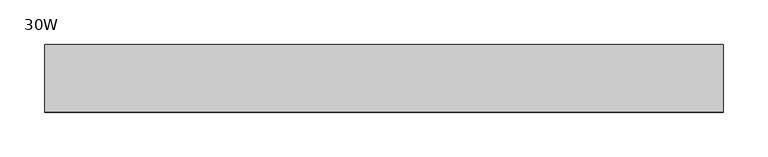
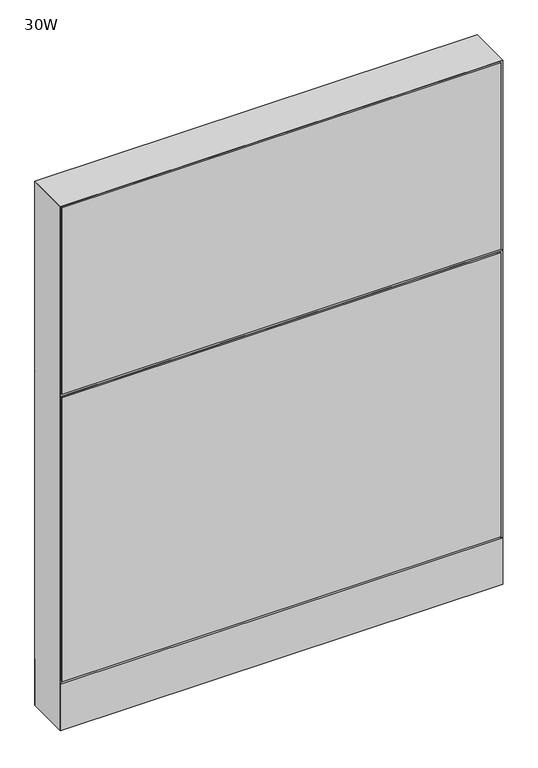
"""IFC4 building model written with IfcOpenShell, lengths in millimetres: furniture geometry, Steelcase - Montage - Frame - 38H - Enhanced Standard - Base Cavity : 30W."""

from ifc_helpers import new_model, si_unit, point, frame, frame_2d, origin, origin_with_axes, place, context, project, spatial, polyline, circle_curve, trimmed, segment, composite_curve, outline, extrude, faceted_brep, source, transform, mapped, element, save


def furniture_30w_2cda6988(model_context):
    return source(origin(), model_context, "Body", "SolidModel", [
        faceted_brep([(-5.4e-06, 38.102627, 612.7750027), (6.3499917, 31.7526299, 619.1249997), (755.6500047, 31.7526299, 619.1249997), (762.0, 38.1026253, 612.7750044), (755.6500047, 31.7526299, 606.4250003), (6.3499917, 31.7526299, 606.4250003)], [[[0, 1, 2, 3]], [[3, 4, 5, 0]], [[1, 5, 4, 2]], [[0, 5, 1]], [[2, 4, 3]]]),
        extrude(outline(polyline([(3.175, 31.7500194), (3.175, 38.1000194), (758.825, 38.1000194), (758.825, 31.7500194), (3.175, 31.7500194)])), frame((0.0, 0.0, 92.075), z_axis=(0.0, 0.0, 1.0), x_axis=(1.0, 0.0, 0.0)), (0.0, 0.0, 1.0), 517.525),
        extrude(outline(polyline([(3.175, 31.7500194), (3.175, 38.1000194), (758.825, 38.1000194), (758.825, 31.7500194), (3.175, 31.7500194)])), frame((0.0, 0.0, 615.95), z_axis=(0.0, 0.0, 1.0), x_axis=(1.0, 0.0, 0.0)), (0.0, 0.0, 1.0), 339.725),
        faceted_brep([(0.0, -38.1026297, 612.775), (762.0, -38.1026297, 612.775), (755.6500047, -31.7526299, 619.1249997), (6.3499917, -31.7526299, 619.1249997), (6.3499917, -31.7526299, 606.4250003), (755.6500047, -31.7526299, 606.4250003)], [[[0, 1, 2, 3]], [[1, 0, 4, 5]], [[3, 2, 5, 4]], [[0, 3, 4]], [[2, 1, 5]]]),
        extrude(outline(polyline([(3.175, -31.7500194), (758.825, -31.7500194), (758.825, -38.1000194), (3.175, -38.1000194), (3.175, -31.7500194)])), frame((0.0, 0.0, 92.075), z_axis=(0.0, 0.0, 1.0), x_axis=(1.0, 0.0, 0.0)), (0.0, 0.0, 1.0), 517.525),
        extrude(outline(polyline([(3.175, -31.7500194), (758.825, -31.7500194), (758.825, -38.1000194), (3.175, -38.1000194), (3.175, -31.7500194)])), frame((0.0, 0.0, 615.95), z_axis=(0.0, 0.0, 1.0), x_axis=(1.0, 0.0, 0.0)), (0.0, 0.0, 1.0), 339.725),
        extrude(outline(polyline([(6.350003, -31.7499985), (755.649997, -31.7499985), (762.0, -38.1000015), (0.0, -38.1000015), (6.350003, -31.7499985)])), frame((0.0, 0.0, 4.064), z_axis=(0.0, 0.0, 1.0), x_axis=(1.0, 0.0, 0.0)), (0.0, 0.0, 1.0), 84.835997),
        extrude(outline(polyline([(6.3500002, 31.7500017), (0.0, 38.1000015), (762.0, 38.1000015), (755.6500002, 31.7500017), (6.3500002, 31.7500017)])), frame((0.0, 0.0, 4.064), z_axis=(0.0, 0.0, 1.0), x_axis=(1.0, 0.0, 0.0)), (0.0, 0.0, 1.0), 84.835997),
        faceted_brep([(762.0, -38.1000015, 958.85), (0.0, -38.1000015, 958.85), (6.3500484, -31.749953, 952.4999516), (755.6499516, -31.749953, 952.4999516), (6.3500484, 31.749953, 952.4999516), (755.6499516, 31.749953, 952.4999516), (0.0, 38.1000015, 958.85), (762.0, 38.1000015, 958.85)], [[[0, 1, 2, 3]], [[3, 2, 4, 5]], [[6, 7, 5, 4]], [[1, 0, 7, 6]], [[2, 1, 6, 4]], [[0, 3, 5, 7]]]),
        extrude(outline(composite_curve([segment(trimmed(circle_curve(frame_2d((44.45, 0.0)), 15.24), [point((29.21, 0.0))], [point((59.69, 0.0))], False, "CARTESIAN"), True, "CONTINUOUS"), segment(trimmed(circle_curve(frame_2d((44.45, 0.0)), 15.24), [point((59.69, 0.0))], [point((29.21, 0.0))], False, "CARTESIAN"), True, "CONTINUOUS")], self_intersect=False)), origin_with_axes(), (0.0, 0.0, 1.0), 4.064),
        extrude(outline(composite_curve([segment(trimmed(circle_curve(frame_2d((717.55, 0.0)), 15.24), [point((702.31, 0.0))], [point((732.79, 0.0))], False, "CARTESIAN"), True, "CONTINUOUS"), segment(trimmed(circle_curve(frame_2d((717.55, 0.0)), 15.24), [point((732.79, 0.0))], [point((702.31, 0.0))], False, "CARTESIAN"), True, "CONTINUOUS")], self_intersect=False)), origin_with_axes(), (0.0, 0.0, 1.0), 4.064),
        faceted_brep([(762.0, -38.1000106, 4.064), (762.0, 38.1000015, 4.064), (762.0, 38.1000015, 958.85), (762.0, -38.1000106, 958.8499637), (0.0, 38.1000015, 4.064), (0.0, -38.1000015, 4.064), (0.0, -38.1000015, 958.85), (0.0, 38.1000015, 958.85), (755.6499879, 31.7500017, 606.425), (6.35, 31.7500017, 606.425), (6.3499998, 31.7500017, 619.125), (755.6499879, 31.7500017, 619.125), (6.35, -31.7499985, 619.125), (755.6499879, -31.7499985, 619.125), (6.350003, -31.7499985, 606.425), (755.6499879, -31.7499985, 606.425), (6.35, 31.7500015, 4.064), (6.35, -31.7500015, 4.064), (755.6499879, 31.7499894, 4.064), (755.6499879, -31.7499985, 4.064), (6.35, 31.7500015, 952.5), (6.35, -31.7500015, 952.5), (755.6499879, -31.7499985, 952.4999516), (755.6499879, 31.7499896, 952.4999516)], [[[0, 1, 2, 3]], [[4, 5, 6, 7]], [[8, 9, 10, 11]], [[11, 10, 12, 13]], [[13, 12, 14, 15]], [[9, 8, 15, 14]], [[16, 17, 5, 4]], [[18, 1, 0, 19]], [[16, 4, 7, 20, 10, 9]], [[5, 17, 14, 12, 21, 6]], [[12, 10, 20, 21]], [[17, 16, 9, 14]], [[11, 13, 22, 23]], [[18, 19, 15, 8]], [[19, 0, 3, 22, 13, 15]], [[1, 18, 8, 11, 23, 2]], [[7, 6, 21, 20]], [[3, 2, 23, 22]]]),
    ])


if __name__ == "__main__":
    model = new_model("IFC4")
    model_context = context("Model", 3, world=origin())
    ifc_project = project(units=[si_unit("LENGTHUNIT", "METRE", prefix="MILLI")], contexts=[model_context])
    site = spatial("IfcSite", under=ifc_project)
    building = spatial("IfcBuilding", under=site)
    placement = place(None, origin())
    furniture_30w_shape = furniture_30w_2cda6988(model_context)
    element("IfcFurniture", 1, ObjectType="Steelcase - Montage - Frame - 38H - Enhanced Standard - Base Cavity : 30W", at=placement, inside=building, context=model_context, shape_type="MappedRepresentation", body=[
        mapped(furniture_30w_shape, transform((0.0, 0.0, 0.0), x_axis=(1.0, 0.0, 0.0), y_axis=(0.0, 1.0, 0.0), z_axis=(0.0, 0.0, 1.0))),
    ])
    save(model, "model.ifc")
